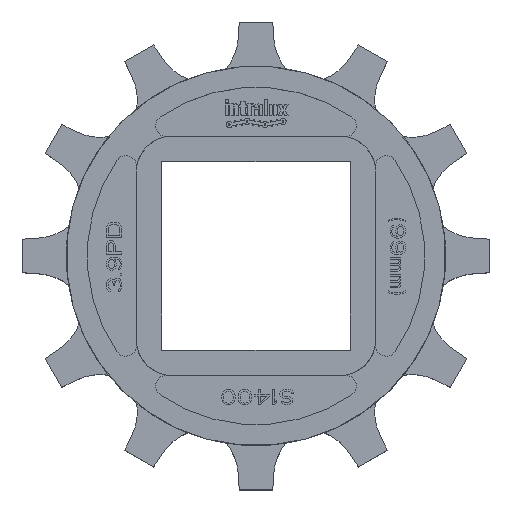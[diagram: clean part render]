
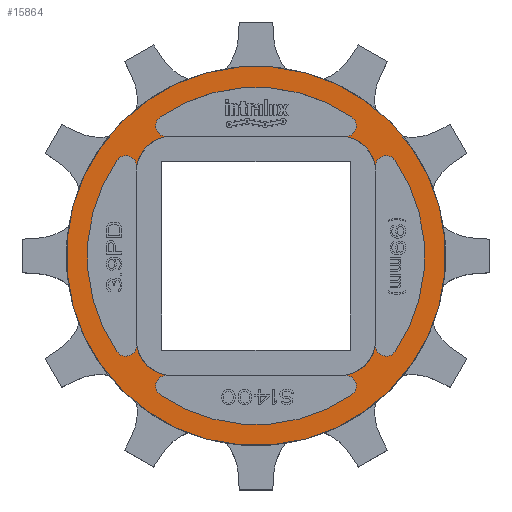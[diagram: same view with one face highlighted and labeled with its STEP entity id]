
A CAD part, top view. The second image highlights one B-rep face of the part: STEP entity #15864.
In plain terms, the highlighted planar face has unit normal (0, 0, 1).
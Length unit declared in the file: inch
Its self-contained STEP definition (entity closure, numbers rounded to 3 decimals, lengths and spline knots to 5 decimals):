
#114=CARTESIAN_POINT('',(0.,0.,0.4125));
#115=DIRECTION('',(0.,0.,1.));
#116=DIRECTION('',(0.259,0.966,0.));
#117=AXIS2_PLACEMENT_3D('',#114,#115,#116);
#898=CARTESIAN_POINT('',(0.,0.,0.4125));
#899=DIRECTION('',(0.,0.,-1.));
#900=DIRECTION('',(0.259,0.966,0.));
#901=AXIS2_PLACEMENT_3D('',#898,#899,#900);
#903=CARTESIAN_POINT('',(0.7,0.7,0.4125));
#904=DIRECTION('',(0.,0.,1.));
#905=DIRECTION('',(0.993,0.122,0.));
#906=AXIS2_PLACEMENT_3D('',#903,#904,#905);
#908=CARTESIAN_POINT('',(-0.7,0.7,0.4125));
#909=DIRECTION('',(0.,0.,1.));
#910=DIRECTION('',(-0.122,0.993,0.));
#911=AXIS2_PLACEMENT_3D('',#908,#909,#910);
#913=CARTESIAN_POINT('',(-0.7,-0.7,0.4125));
#914=DIRECTION('',(0.,0.,1.));
#915=DIRECTION('',(-0.993,-0.122,0.));
#916=AXIS2_PLACEMENT_3D('',#913,#914,#915);
#918=CARTESIAN_POINT('',(0.7,-0.7,0.4125));
#919=DIRECTION('',(0.,0.,1.));
#920=DIRECTION('',(0.122,-0.993,0.));
#921=AXIS2_PLACEMENT_3D('',#918,#919,#920);
#1026=CARTESIAN_POINT('',(0.7476,1.08728,0.4125));
#1027=DIRECTION('',(0.,0.,-1.));
#1028=DIRECTION('',(0.567,0.824,0.));
#1029=AXIS2_PLACEMENT_3D('',#1026,#1027,#1028);
#3983=CARTESIAN_POINT('',(1.08728,-0.7476,0.4125));
#3984=DIRECTION('',(0.,0.,-1.));
#3985=DIRECTION('',(0.824,-0.567,0.));
#3986=AXIS2_PLACEMENT_3D('',#3983,#3984,#3985);
#4000=CARTESIAN_POINT('',(0.7476,-1.08728,0.4125));
#4001=DIRECTION('',(0.,0.,-1.));
#4002=DIRECTION('',(-0.122,0.993,0.));
#4003=AXIS2_PLACEMENT_3D('',#4000,#4001,#4002);
#4019=CARTESIAN_POINT('',(0.,0.,0.4125));
#4020=DIRECTION('',(0.,0.,-1.));
#4021=DIRECTION('',(0.824,0.567,0.));
#4022=AXIS2_PLACEMENT_3D('',#4019,#4020,#4021);
#4029=CARTESIAN_POINT('',(0.,0.,0.4125));
#4030=DIRECTION('',(0.,0.,-1.));
#4031=DIRECTION('',(0.567,-0.824,0.));
#4032=AXIS2_PLACEMENT_3D('',#4029,#4030,#4031);
#4039=CARTESIAN_POINT('',(0.,0.,0.4125));
#4040=DIRECTION('',(0.,0.,-1.));
#4041=DIRECTION('',(-0.824,-0.567,0.));
#4042=AXIS2_PLACEMENT_3D('',#4039,#4040,#4041);
#4049=CARTESIAN_POINT('',(0.,0.,0.4125));
#4050=DIRECTION('',(0.,0.,-1.));
#4051=DIRECTION('',(-0.567,0.824,0.));
#4052=AXIS2_PLACEMENT_3D('',#4049,#4050,#4051);
#4098=CARTESIAN_POINT('',(1.08728,0.7476,0.4125));
#4099=DIRECTION('',(0.,0.,-1.));
#4100=DIRECTION('',(-0.993,-0.122,0.));
#4101=AXIS2_PLACEMENT_3D('',#4098,#4099,#4100);
#4116=CARTESIAN_POINT('',(-0.7476,-1.08728,0.4125));
#4117=DIRECTION('',(0.,0.,-1.));
#4118=DIRECTION('',(-0.567,-0.824,0.));
#4119=AXIS2_PLACEMENT_3D('',#4116,#4117,#4118);
#4151=CARTESIAN_POINT('',(-1.08728,-0.7476,0.4125));
#4152=DIRECTION('',(0.,0.,-1.));
#4153=DIRECTION('',(0.993,0.122,0.));
#4154=AXIS2_PLACEMENT_3D('',#4151,#4152,#4153);
#4310=CARTESIAN_POINT('',(-0.7476,1.08728,0.4125));
#4311=DIRECTION('',(0.,0.,-1.));
#4312=DIRECTION('',(0.122,-0.993,0.));
#4313=AXIS2_PLACEMENT_3D('',#4310,#4311,#4312);
#4412=CARTESIAN_POINT('',(-1.08728,0.7476,0.4125));
#4413=DIRECTION('',(0.,0.,-1.));
#4414=DIRECTION('',(-0.824,0.567,0.));
#4415=AXIS2_PLACEMENT_3D('',#4412,#4413,#4414);
#12556=CARTESIAN_POINT('',(0.41015,1.53069,0.4125));
#12558=VERTEX_POINT('',#12556);
#12560=CARTESIAN_POINT('',(1.12054,1.12054,0.4125));
#12562=VERTEX_POINT('',#12560);
#14135=CARTESIAN_POINT('',(0.99776,0.73659,0.4125));
#14137=VERTEX_POINT('',#14135);
#14139=CARTESIAN_POINT('',(1.16159,0.7987,0.4125));
#14141=VERTEX_POINT('',#14139);
#14152=CARTESIAN_POINT('',(0.99776,-0.73659,0.4125));
#14154=VERTEX_POINT('',#14152);
#14157=CARTESIAN_POINT('',(1.16159,-0.7987,0.4125));
#14158=VERTEX_POINT('',#14157);
#14159=CARTESIAN_POINT('',(0.73659,-0.99776,0.4125));
#14161=VERTEX_POINT('',#14159);
#14163=CARTESIAN_POINT('',(0.7987,-1.16159,0.4125));
#14165=VERTEX_POINT('',#14163);
#14167=CARTESIAN_POINT('',(-0.7987,-1.16159,0.4125));
#14169=VERTEX_POINT('',#14167);
#14171=CARTESIAN_POINT('',(-0.73659,-0.99776,0.4125));
#14173=VERTEX_POINT('',#14171);
#14184=CARTESIAN_POINT('',(-1.16159,-0.7987,0.4125));
#14186=VERTEX_POINT('',#14184);
#14189=CARTESIAN_POINT('',(-0.99776,-0.73659,0.4125));
#14190=VERTEX_POINT('',#14189);
#14191=CARTESIAN_POINT('',(-1.16159,0.7987,0.4125));
#14193=VERTEX_POINT('',#14191);
#14195=CARTESIAN_POINT('',(-0.99776,0.73659,0.4125));
#14197=VERTEX_POINT('',#14195);
#14199=CARTESIAN_POINT('',(-0.73659,0.99776,0.4125));
#14201=VERTEX_POINT('',#14199);
#14203=CARTESIAN_POINT('',(-0.7987,1.16159,0.4125));
#14205=VERTEX_POINT('',#14203);
#14216=CARTESIAN_POINT('',(0.73659,0.99776,0.4125));
#14218=VERTEX_POINT('',#14216);
#14221=CARTESIAN_POINT('',(0.7987,1.16159,0.4125));
#14222=VERTEX_POINT('',#14221);
#15820=CARTESIAN_POINT('',(0.,0.,0.4125));
#15821=DIRECTION('',(0.,0.,1.));
#15822=DIRECTION('',(1.,0.,0.));
#15823=AXIS2_PLACEMENT_3D('',#15820,#15821,#15822);
#15824=PLANE('',#15823);
#15825=ORIENTED_EDGE('',*,*,#14578,.F.);
#15827=ORIENTED_EDGE('',*,*,#15826,.T.);
#15828=EDGE_LOOP('',(#15825,#15827));
#15829=FACE_OUTER_BOUND('',#15828,.F.);
#15831=ORIENTED_EDGE('',*,*,#15830,.T.);
#15833=ORIENTED_EDGE('',*,*,#15832,.F.);
#15835=ORIENTED_EDGE('',*,*,#15834,.F.);
#15837=ORIENTED_EDGE('',*,*,#15836,.F.);
#15839=ORIENTED_EDGE('',*,*,#15838,.T.);
#15841=ORIENTED_EDGE('',*,*,#15840,.F.);
#15843=ORIENTED_EDGE('',*,*,#15842,.F.);
#15845=ORIENTED_EDGE('',*,*,#15844,.F.);
#15847=ORIENTED_EDGE('',*,*,#15846,.T.);
#15849=ORIENTED_EDGE('',*,*,#15848,.F.);
#15851=ORIENTED_EDGE('',*,*,#15850,.F.);
#15853=ORIENTED_EDGE('',*,*,#15852,.F.);
#15855=ORIENTED_EDGE('',*,*,#15854,.T.);
#15857=ORIENTED_EDGE('',*,*,#15856,.F.);
#15859=ORIENTED_EDGE('',*,*,#15858,.F.);
#15861=ORIENTED_EDGE('',*,*,#15860,.F.);
#15862=EDGE_LOOP('',(#15831,#15833,#15835,#15837,#15839,#15841,#15843,#15845,
#15847,#15849,#15851,#15853,#15855,#15857,#15859,#15861));
#15863=FACE_BOUND('',#15862,.F.);
#15864=ADVANCED_FACE('',(#15829,#15863),#15824,.T.);
#118=CIRCLE('',#117,1.58469);
#902=CIRCLE('',#901,1.58469);
#907=CIRCLE('',#906,0.3);
#912=CIRCLE('',#911,0.3);
#917=CIRCLE('',#916,0.3);
#922=CIRCLE('',#921,0.3);
#1030=CIRCLE('',#1029,0.09019);
#3987=CIRCLE('',#3986,0.09019);
#4004=CIRCLE('',#4003,0.09019);
#4023=CIRCLE('',#4022,1.40969);
#4033=CIRCLE('',#4032,1.40969);
#4043=CIRCLE('',#4042,1.40969);
#4053=CIRCLE('',#4052,1.40969);
#4102=CIRCLE('',#4101,0.09019);
#4120=CIRCLE('',#4119,0.09019);
#4155=CIRCLE('',#4154,0.09019);
#4314=CIRCLE('',#4313,0.09019);
#4416=CIRCLE('',#4415,0.09019);
#14578=EDGE_CURVE('',#12558,#12562,#118,.T.);
#15826=EDGE_CURVE('',#12558,#12562,#902,.T.);
#15830=EDGE_CURVE('',#14137,#14218,#907,.T.);
#15832=EDGE_CURVE('',#14222,#14218,#1030,.T.);
#15834=EDGE_CURVE('',#14205,#14222,#4053,.T.);
#15836=EDGE_CURVE('',#14201,#14205,#4314,.T.);
#15838=EDGE_CURVE('',#14201,#14197,#912,.T.);
#15840=EDGE_CURVE('',#14193,#14197,#4416,.T.);
#15842=EDGE_CURVE('',#14186,#14193,#4043,.T.);
#15844=EDGE_CURVE('',#14190,#14186,#4155,.T.);
#15846=EDGE_CURVE('',#14190,#14173,#917,.T.);
#15848=EDGE_CURVE('',#14169,#14173,#4120,.T.);
#15850=EDGE_CURVE('',#14165,#14169,#4033,.T.);
#15852=EDGE_CURVE('',#14161,#14165,#4004,.T.);
#15854=EDGE_CURVE('',#14161,#14154,#922,.T.);
#15856=EDGE_CURVE('',#14158,#14154,#3987,.T.);
#15858=EDGE_CURVE('',#14141,#14158,#4023,.T.);
#15860=EDGE_CURVE('',#14137,#14141,#4102,.T.);
